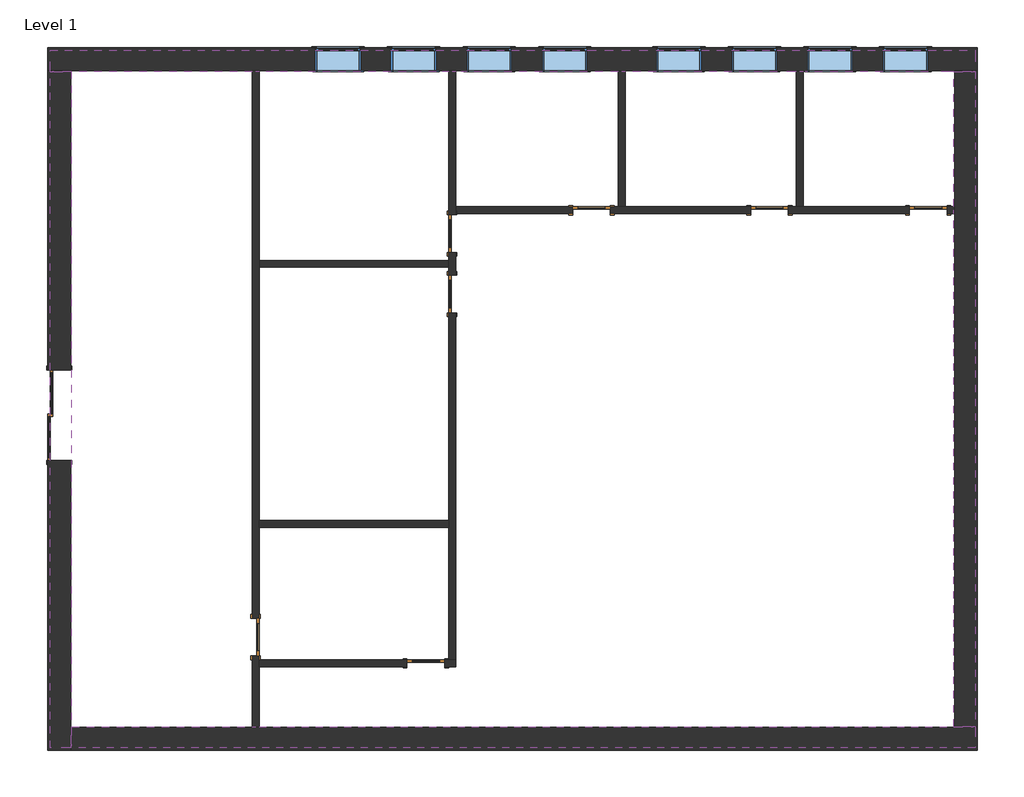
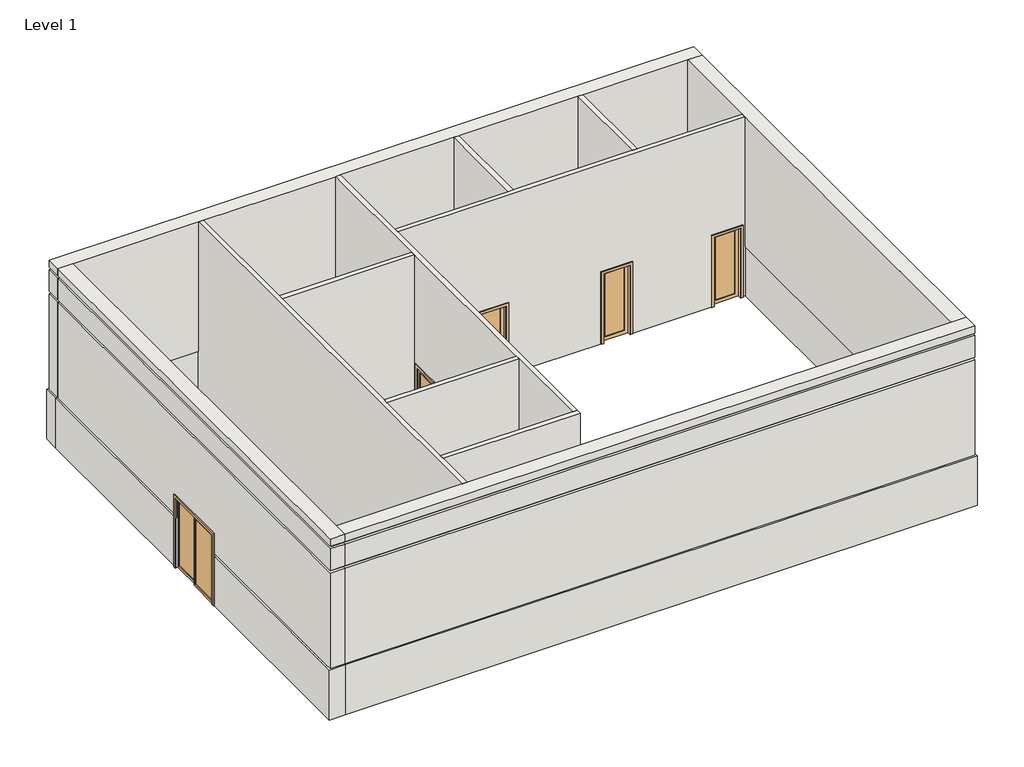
# One storey: 16 walls, 8 doors, 8 windows.
"""IFC4 building model written with IfcOpenShell, lengths in millimetres."""

from ifc_helpers import new_model, si_unit, frame, origin, origin_with_axes, place, context, project, spatial, polyline, outline, extrude, faceted_brep, transform, mapped, element, save
from components import m_single_glass_1_0762_x_2134mm_f7d00e6c, m_single_glass_1_0762_x_2134mm_cf50c2e0, m_sliding_2_panel_1830_x_2134mm_b40b9b25, m_awning_with_trim_0915_x_1220mm_bfbb01a6, m_awning_with_trim_0915_x_1220mm_118d3a6c

model = new_model("IFC4")

# Units and contexts
model_context = context("Model", 3, world=origin())
ifc_project = project(units=[si_unit("LENGTHUNIT", "METRE", prefix="MILLI")], contexts=[model_context])

# Site, building, storey
site = spatial("IfcSite", under=ifc_project)
building = spatial("IfcBuilding", under=site)
storey = spatial("IfcBuildingStorey", under=building, Name="Level 1", Elevation=0.0)

# Doors
placement = place(None, origin())
m_single_glass_1_0762_x_2134mm_shape = m_single_glass_1_0762_x_2134mm_f7d00e6c(model_context)
element("IfcDoor", 1, ObjectType="M_Single-Glass 1 : 0762 x 2134mm", at=placement, inside=storey, context=model_context, shape_type="MappedRepresentation", body=[
    mapped(m_single_glass_1_0762_x_2134mm_shape, transform((6504.7849316, 118.507772, 0.0), x_axis=(0.0, -1.0, 0.0), y_axis=(1.0, 0.0, 0.0), z_axis=(0.0, 0.0, 1.0))),
])
m_single_glass_1_0762_x_2134mm_2_shape = m_single_glass_1_0762_x_2134mm_cf50c2e0(model_context)
element("IfcDoor", 2, ObjectType="M_Single-Glass 1 : 0762 x 2134mm", at=placement, inside=storey, context=model_context, shape_type="MappedRepresentation", body=[
    mapped(m_single_glass_1_0762_x_2134mm_2_shape, transform((2542.7849316, -8025.342228, 0.0), x_axis=(0.0, -1.0, 0.0), y_axis=(1.0, 0.0, 0.0), z_axis=(0.0, 0.0, 1.0))),
])
element("IfcDoor", 3, ObjectType="M_Single-Glass 1 : 0762 x 2134mm", at=placement, inside=storey, context=model_context, shape_type="MappedRepresentation", body=[
    mapped(m_single_glass_1_0762_x_2134mm_2_shape, transform((5975.5349316, -8554.592228, 0.0), x_axis=(1.0, 0.0, 0.0), y_axis=(0.0, 1.0, 0.0), z_axis=(0.0, 0.0, 1.0))),
])
element("IfcDoor", 4, ObjectType="M_Single-Glass 1 : 0762 x 2134mm", at=placement, inside=storey, context=model_context, shape_type="MappedRepresentation", body=[
    mapped(m_single_glass_1_0762_x_2134mm_2_shape, transform((6504.7849316, -1101.492228, 0.0), x_axis=(0.0, 1.0, 0.0), y_axis=(-1.0, 0.0, 0.0), z_axis=(0.0, 0.0, 1.0))),
])
element("IfcDoor", 5, ObjectType="M_Single-Glass 1 : 0762 x 2134mm", at=placement, inside=storey, context=model_context, shape_type="MappedRepresentation", body=[
    mapped(m_single_glass_1_0762_x_2134mm_2_shape, transform((9317.0349316, 589.407772, 0.0), x_axis=(1.0, 0.0, 0.0), y_axis=(0.0, 1.0, 0.0), z_axis=(0.0, 0.0, 1.0))),
])
element("IfcDoor", 6, ObjectType="M_Single-Glass 1 : 0762 x 2134mm", at=placement, inside=storey, context=model_context, shape_type="MappedRepresentation", body=[
    mapped(m_single_glass_1_0762_x_2134mm_2_shape, transform((12905.7849316, 589.407772, 0.0), x_axis=(1.0, 0.0, 0.0), y_axis=(0.0, 1.0, 0.0), z_axis=(0.0, 0.0, 1.0))),
])
element("IfcDoor", 7, ObjectType="M_Single-Glass 1 : 0762 x 2134mm", at=placement, inside=storey, context=model_context, shape_type="MappedRepresentation", body=[
    mapped(m_single_glass_1_0762_x_2134mm_2_shape, transform((16106.7849316, 589.407772, 0.0), x_axis=(1.0, 0.0, 0.0), y_axis=(0.0, 1.0, 0.0), z_axis=(0.0, 0.0, 1.0))),
])
m_sliding_2_panel_1830_x_2134mm_shape = m_sliding_2_panel_1830_x_2134mm_b40b9b25(model_context)
element("IfcDoor", 8, ObjectType="M_Sliding-2 Panel : 1830 x 2134mm", at=placement, inside=storey, context=model_context, shape_type="MappedRepresentation", body=[
    mapped(m_sliding_2_panel_1830_x_2134mm_shape, transform((-1292.2150684, -3548.1132923, 0.0), x_axis=(0.0, 1.0, 0.0), y_axis=(-1.0, 0.0, 0.0), z_axis=(0.0, 0.0, 1.0))),
])

# Walls
element("IfcWall", 9, ObjectType="Exterior - Block on Mtl. Stud", at=placement, inside=storey, context=model_context, shape_type="Brep", body=[
    faceted_brep([(-1649.2150684, 3407.407772, 0.0), (-1189.2150684, 3407.407772, 0.0), (2473.5349316, 3407.407772, 0.0), (2612.0349316, 3407.407772, 0.0), (6435.5349316, 3407.407772, 0.0), (6574.0349316, 3407.407772, 0.0), (9857.7849316, 3407.407772, 0.0), (9996.2849316, 3407.407772, 0.0), (13446.5349316, 3407.407772, 0.0), (13585.0349316, 3407.407772, 0.0), (16638.7849316, 3407.407772, 0.0), (17098.7849316, 3407.407772, 0.0), (17098.7849316, 3407.407772, 1524.0), (16638.7849316, 3407.407772, 1524.0), (16107.2849316, 3407.407772, 1524.0), (16107.2849316, 3407.407772, 915.0), (15192.2849316, 3407.407772, 915.0), (15192.2849316, 3407.407772, 1524.0), (14583.2849316, 3407.407772, 1524.0), (14583.2849316, 3407.407772, 915.0), (13668.2849316, 3407.407772, 915.0), (13668.2849316, 3407.407772, 1524.0), (13585.0349316, 3407.407772, 1524.0), (13446.5349316, 3407.407772, 1524.0), (13059.2849316, 3407.407772, 1524.0), (13059.2849316, 3407.407772, 915.0), (12144.2849316, 3407.407772, 915.0), (12144.2849316, 3407.407772, 1524.0), (11535.2849316, 3407.407772, 1524.0), (11535.2849316, 3407.407772, 915.0), (10620.2849316, 3407.407772, 915.0), (10620.2849316, 3407.407772, 1524.0), (9996.2849316, 3407.407772, 1524.0), (9857.7849316, 3407.407772, 1524.0), (9233.7849316, 3407.407772, 1524.0), (9233.7849316, 3407.407772, 915.0), (8318.7849316, 3407.407772, 915.0), (8318.7849316, 3407.407772, 1524.0), (7709.7849316, 3407.407772, 1524.0), (7709.7849316, 3407.407772, 915.0), (6794.7849316, 3407.407772, 915.0), (6794.7849316, 3407.407772, 1524.0), (6574.0349316, 3407.407772, 1524.0), (6435.5349316, 3407.407772, 1524.0), (6185.7849316, 3407.407772, 1524.0), (6185.7849316, 3407.407772, 915.0), (5270.7849316, 3407.407772, 915.0), (5270.7849316, 3407.407772, 1524.0), (4661.7849316, 3407.407772, 1524.0), (4661.7849316, 3407.407772, 915.0), (3746.7849316, 3407.407772, 915.0), (3746.7849316, 3407.407772, 1524.0), (2612.0349316, 3407.407772, 1524.0), (2473.5349316, 3407.407772, 1524.0), (-1189.2150684, 3407.407772, 1524.0), (-1649.2150684, 3407.407772, 1524.0), (17098.7849316, 3867.407772, 0.0), (-1649.2150684, 3867.407772, 0.0), (-1649.2150684, 3867.407772, 1524.0), (3746.7849316, 3867.407772, 1524.0), (3746.7849316, 3867.407772, 915.0), (4661.7849316, 3867.407772, 915.0), (4661.7849316, 3867.407772, 1524.0), (5270.7849316, 3867.407772, 1524.0), (5270.7849316, 3867.407772, 915.0), (6185.7849316, 3867.407772, 915.0), (6185.7849316, 3867.407772, 1524.0), (6794.7849316, 3867.407772, 1524.0), (6794.7849316, 3867.407772, 915.0), (7709.7849316, 3867.407772, 915.0), (7709.7849316, 3867.407772, 1524.0), (8318.7849316, 3867.407772, 1524.0), (8318.7849316, 3867.407772, 915.0), (9233.7849316, 3867.407772, 915.0), (9233.7849316, 3867.407772, 1524.0), (10620.2849316, 3867.407772, 1524.0), (10620.2849316, 3867.407772, 915.0), (11535.2849316, 3867.407772, 915.0), (11535.2849316, 3867.407772, 1524.0), (12144.2849316, 3867.407772, 1524.0), (12144.2849316, 3867.407772, 915.0), (13059.2849316, 3867.407772, 915.0), (13059.2849316, 3867.407772, 1524.0), (13668.2849316, 3867.407772, 1524.0), (13668.2849316, 3867.407772, 915.0), (14583.2849316, 3867.407772, 915.0), (14583.2849316, 3867.407772, 1524.0), (15192.2849316, 3867.407772, 1524.0), (15192.2849316, 3867.407772, 915.0), (16107.2849316, 3867.407772, 915.0), (16107.2849316, 3867.407772, 1524.0), (17098.7849316, 3867.407772, 1524.0), (3746.7849316, 3818.407772, 1524.0), (16107.2849316, 3818.407772, 1524.0), (15192.2849316, 3818.407772, 1524.0), (14583.2849316, 3818.407772, 1524.0), (13668.2849316, 3818.407772, 1524.0), (13059.2849316, 3818.407772, 1524.0), (12144.2849316, 3818.407772, 1524.0), (11535.2849316, 3818.407772, 1524.0), (10620.2849316, 3818.407772, 1524.0), (9233.7849316, 3818.407772, 1524.0), (8318.7849316, 3818.407772, 1524.0), (7709.7849316, 3818.407772, 1524.0), (6794.7849316, 3818.407772, 1524.0), (6185.7849316, 3818.407772, 1524.0), (5270.7849316, 3818.407772, 1524.0), (4661.7849316, 3818.407772, 1524.0)], [[[0, 1, 2, 3, 4, 5, 6, 7, 8, 9, 10, 11, 12, 13, 14, 15, 16, 17, 18, 19, 20, 21, 22, 23, 24, 25, 26, 27, 28, 29, 30, 31, 32, 33, 34, 35, 36, 37, 38, 39, 40, 41, 42, 43, 44, 45, 46, 47, 48, 49, 50, 51, 52, 53, 54, 55]], [[56, 57, 58, 59, 60, 61, 62, 63, 64, 65, 66, 67, 68, 69, 70, 71, 72, 73, 74, 75, 76, 77, 78, 79, 80, 81, 82, 83, 84, 85, 86, 87, 88, 89, 90, 91]], [[11, 10, 9, 8, 7, 6, 5, 4, 3, 2, 1, 0, 57, 56]], [[58, 55, 54, 53, 52, 51, 92, 59]], [[12, 91, 90, 93, 14, 13]], [[17, 94, 87, 86, 95, 18]], [[21, 96, 83, 82, 97, 24, 23, 22]], [[27, 98, 79, 78, 99, 28]], [[31, 100, 75, 74, 101, 34, 33, 32]], [[37, 102, 71, 70, 103, 38]], [[41, 104, 67, 66, 105, 44, 43, 42]], [[47, 106, 63, 62, 107, 48]], [[0, 55, 58, 57]], [[12, 11, 56, 91]], [[89, 15, 14, 93, 90]], [[15, 89, 88, 16]], [[16, 88, 87, 94, 17]], [[85, 19, 18, 95, 86]], [[19, 85, 84, 20]], [[20, 84, 83, 96, 21]], [[81, 25, 24, 97, 82]], [[25, 81, 80, 26]], [[26, 80, 79, 98, 27]], [[77, 29, 28, 99, 78]], [[29, 77, 76, 30]], [[30, 76, 75, 100, 31]], [[36, 72, 71, 102, 37]], [[72, 36, 35, 73]], [[73, 35, 34, 101, 74]], [[40, 68, 67, 104, 41]], [[68, 40, 39, 69]], [[69, 39, 38, 103, 70]], [[46, 64, 63, 106, 47]], [[64, 46, 45, 65]], [[65, 45, 44, 105, 66]], [[50, 60, 59, 92, 51]], [[60, 50, 49, 61]], [[61, 49, 48, 107, 62]]]),
])
element("IfcWall", 10, ObjectType="Exterior - Block on Mtl. Stud", at=placement, inside=storey, context=model_context, shape_type="Brep", body=[
    faceted_brep([(-1189.2150684, 3407.407772, 0.0), (-1189.2150684, 3407.407772, 1524.0), (-1189.2150684, -2633.1132923, 1524.0), (-1189.2150684, -2633.1132923, 0.0), (-1649.2150684, 3407.407772, 1524.0), (-1649.2150684, 3407.407772, 0.0), (-1649.2150684, -2633.1132923, 0.0), (-1649.2150684, -2633.1132923, 1524.0), (-1600.2150684, -2633.1132923, 1524.0)], [[[0, 1, 2, 3]], [[4, 5, 6, 7]], [[5, 0, 3, 6]], [[1, 4, 7, 8, 2]], [[1, 0, 5, 4]], [[3, 2, 8, 7, 6]]]),
    faceted_brep([(-1189.2150684, -10308.592228, 1524.0), (-1189.2150684, -10308.592228, 0.0), (-1189.2150684, -9848.592228, 0.0), (-1189.2150684, -4463.1132923, 0.0), (-1189.2150684, -4463.1132923, 1524.0), (-1189.2150684, -9848.592228, 1524.0), (-1649.2150684, -10308.592228, 0.0), (-1649.2150684, -10308.592228, 1524.0), (-1649.2150684, -4463.1132923, 1524.0), (-1649.2150684, -4463.1132923, 0.0), (-1600.2150684, -4463.1132923, 1524.0)], [[[0, 1, 2, 3, 4, 5]], [[6, 7, 8, 9]], [[1, 6, 9, 3, 2]], [[7, 0, 5, 4, 10, 8]], [[1, 0, 7, 6]], [[4, 3, 9, 8, 10]]]),
])
element("IfcWall", 11, ObjectType="Exterior - Block on Mtl. Stud", at=placement, inside=storey, context=model_context, shape_type="Brep", body=[
    faceted_brep([(17098.7849316, -9848.592228, 0.0), (16638.7849316, -9848.592228, 0.0), (2612.0349316, -9848.592228, 0.0), (2473.5349316, -9848.592228, 0.0), (-1189.2150684, -9848.592228, 0.0), (-1189.2150684, -9848.592228, 1524.0), (2473.5349316, -9848.592228, 1524.0), (2612.0349316, -9848.592228, 1524.0), (16638.7849316, -9848.592228, 1524.0), (17098.7849316, -9848.592228, 1524.0), (17098.7849316, -10308.592228, 0.0), (17098.7849316, -10308.592228, 1524.0), (-1189.2150684, -10308.592228, 1524.0), (-1189.2150684, -10308.592228, 0.0)], [[[0, 1, 2, 3, 4, 5, 6, 7, 8, 9]], [[10, 11, 12, 13]], [[4, 3, 2, 1, 0, 10, 13]], [[9, 8, 7, 6, 5, 12, 11]], [[0, 9, 11, 10]], [[5, 4, 13, 12]]]),
])
element("IfcWall", 12, ObjectType="Exterior - Block on Mtl. Stud", at=placement, inside=storey, context=model_context, shape_type="Brep", body=[
    faceted_brep([(16638.7849316, 3407.407772, 0.0), (16638.7849316, 658.657772, 0.0), (16638.7849316, 520.157772, 0.0), (16638.7849316, -9848.592228, 0.0), (16638.7849316, -9848.592228, 1524.0), (16638.7849316, 520.157772, 1524.0), (16638.7849316, 658.657772, 1524.0), (16638.7849316, 3407.407772, 1524.0), (17098.7849316, 3407.407772, 0.0), (17098.7849316, 3407.407772, 1524.0), (17098.7849316, -9848.592228, 1524.0), (17098.7849316, -9848.592228, 0.0)], [[[0, 1, 2, 3, 4, 5, 6, 7]], [[8, 9, 10, 11]], [[3, 2, 1, 0, 8, 11]], [[7, 6, 5, 4, 10, 9]], [[0, 7, 9, 8]], [[4, 3, 11, 10]]]),
])
element("IfcWall", 13, ObjectType="Exterior - Render on Brick on Block", at=placement, inside=storey, context=model_context, shape_type="Brep", body=[
    faceted_brep([(17049.7849316, 3389.407772, 5486.0), (16620.7849316, 3389.407772, 5486.0), (13585.0349316, 3389.407772, 5486.0), (13446.5349316, 3389.407772, 5486.0), (9996.2849316, 3389.407772, 5486.0), (9857.7849316, 3389.407772, 5486.0), (6574.0349316, 3389.407772, 5486.0), (6435.5349316, 3389.407772, 5486.0), (2612.0349316, 3389.407772, 5486.0), (2473.5349316, 3389.407772, 5486.0), (-1171.2150684, 3389.407772, 5486.0), (-1600.2150684, 3389.407772, 5486.0), (-1600.2150684, 3389.407772, 5261.0), (-1525.2150684, 3389.407772, 5261.0), (-1525.2150684, 3389.407772, 5186.0), (-1600.2150684, 3389.407772, 5186.0), (-1600.2150684, 3389.407772, 4524.0), (-1525.2150684, 3389.407772, 4524.0), (-1525.2150684, 3389.407772, 4449.0), (-1600.2150684, 3389.407772, 4449.0), (-1600.2150684, 3389.407772, 1524.0), (-1171.2150684, 3389.407772, 1524.0), (2473.5349316, 3389.407772, 1524.0), (2612.0349316, 3389.407772, 1524.0), (3746.7849316, 3389.407772, 1524.0), (3746.7849316, 3389.407772, 2135.0), (4661.7849316, 3389.407772, 2135.0), (4661.7849316, 3389.407772, 1524.0), (5270.7849316, 3389.407772, 1524.0), (5270.7849316, 3389.407772, 2135.0), (6185.7849316, 3389.407772, 2135.0), (6185.7849316, 3389.407772, 1524.0), (6435.5349316, 3389.407772, 1524.0), (6574.0349316, 3389.407772, 1524.0), (6794.7849316, 3389.407772, 1524.0), (6794.7849316, 3389.407772, 2135.0), (7709.7849316, 3389.407772, 2135.0), (7709.7849316, 3389.407772, 1524.0), (8318.7849316, 3389.407772, 1524.0), (8318.7849316, 3389.407772, 2135.0), (9233.7849316, 3389.407772, 2135.0), (9233.7849316, 3389.407772, 1524.0), (9857.7849316, 3389.407772, 1524.0), (9996.2849316, 3389.407772, 1524.0), (10620.2849316, 3389.407772, 1524.0), (10620.2849316, 3389.407772, 2135.0), (11535.2849316, 3389.407772, 2135.0), (11535.2849316, 3389.407772, 1524.0), (12144.2849316, 3389.407772, 1524.0), (12144.2849316, 3389.407772, 2135.0), (13059.2849316, 3389.407772, 2135.0), (13059.2849316, 3389.407772, 1524.0), (13446.5349316, 3389.407772, 1524.0), (13585.0349316, 3389.407772, 1524.0), (13668.2849316, 3389.407772, 1524.0), (13668.2849316, 3389.407772, 2135.0), (14583.2849316, 3389.407772, 2135.0), (14583.2849316, 3389.407772, 1524.0), (15192.2849316, 3389.407772, 1524.0), (15192.2849316, 3389.407772, 2135.0), (16107.2849316, 3389.407772, 2135.0), (16107.2849316, 3389.407772, 1524.0), (16620.7849316, 3389.407772, 1524.0), (17049.7849316, 3389.407772, 1524.0), (17049.7849316, 3389.407772, 4449.0), (16974.7849316, 3389.407772, 4449.0), (16974.7849316, 3389.407772, 4524.0), (17049.7849316, 3389.407772, 4524.0), (17049.7849316, 3389.407772, 5186.0), (16974.7849316, 3389.407772, 5186.0), (16974.7849316, 3389.407772, 5261.0), (17049.7849316, 3389.407772, 5261.0), (-1600.2150684, 3818.407772, 5486.0), (17049.7849316, 3818.407772, 5486.0), (17049.7849316, 3818.407772, 5261.0), (-1600.2150684, 3818.407772, 5261.0), (-1600.2150684, 3818.407772, 1524.0), (-1600.2150684, 3818.407772, 4449.0), (17049.7849316, 3818.407772, 4449.0), (17049.7849316, 3818.407772, 1524.0), (16107.2849316, 3818.407772, 1524.0), (16107.2849316, 3818.407772, 2135.0), (15192.2849316, 3818.407772, 2135.0), (15192.2849316, 3818.407772, 1524.0), (14583.2849316, 3818.407772, 1524.0), (14583.2849316, 3818.407772, 2135.0), (13668.2849316, 3818.407772, 2135.0), (13668.2849316, 3818.407772, 1524.0), (13059.2849316, 3818.407772, 1524.0), (13059.2849316, 3818.407772, 2135.0), (12144.2849316, 3818.407772, 2135.0), (12144.2849316, 3818.407772, 1524.0), (11535.2849316, 3818.407772, 1524.0), (11535.2849316, 3818.407772, 2135.0), (10620.2849316, 3818.407772, 2135.0), (10620.2849316, 3818.407772, 1524.0), (9233.7849316, 3818.407772, 1524.0), (9233.7849316, 3818.407772, 2135.0), (8318.7849316, 3818.407772, 2135.0), (8318.7849316, 3818.407772, 1524.0), (7709.7849316, 3818.407772, 1524.0), (7709.7849316, 3818.407772, 2135.0), (6794.7849316, 3818.407772, 2135.0), (6794.7849316, 3818.407772, 1524.0), (6185.7849316, 3818.407772, 1524.0), (6185.7849316, 3818.407772, 2135.0), (5270.7849316, 3818.407772, 2135.0), (5270.7849316, 3818.407772, 1524.0), (4661.7849316, 3818.407772, 1524.0), (4661.7849316, 3818.407772, 2135.0), (3746.7849316, 3818.407772, 2135.0), (3746.7849316, 3818.407772, 1524.0), (17049.7849316, 3818.407772, 4524.0), (-1600.2150684, 3818.407772, 4524.0), (-1600.2150684, 3818.407772, 5186.0), (17049.7849316, 3818.407772, 5186.0), (17049.7849316, 3793.407772, 1524.0), (16107.2849316, 3407.407772, 1524.0), (16107.2849316, 3793.407772, 1524.0), (-1600.2150684, 3793.407772, 1524.0), (3746.7849316, 3793.407772, 1524.0), (3746.7849316, 3407.407772, 1524.0), (15192.2849316, 3793.407772, 1524.0), (15192.2849316, 3407.407772, 1524.0), (14583.2849316, 3407.407772, 1524.0), (14583.2849316, 3793.407772, 1524.0), (13668.2849316, 3793.407772, 1524.0), (13668.2849316, 3407.407772, 1524.0), (13059.2849316, 3407.407772, 1524.0), (13059.2849316, 3793.407772, 1524.0), (12144.2849316, 3793.407772, 1524.0), (12144.2849316, 3407.407772, 1524.0), (11535.2849316, 3407.407772, 1524.0), (11535.2849316, 3793.407772, 1524.0), (10620.2849316, 3793.407772, 1524.0), (10620.2849316, 3407.407772, 1524.0), (9233.7849316, 3407.407772, 1524.0), (9233.7849316, 3793.407772, 1524.0), (8318.7849316, 3793.407772, 1524.0), (8318.7849316, 3407.407772, 1524.0), (7709.7849316, 3407.407772, 1524.0), (7709.7849316, 3793.407772, 1524.0), (6794.7849316, 3793.407772, 1524.0), (6794.7849316, 3407.407772, 1524.0), (6185.7849316, 3407.407772, 1524.0), (6185.7849316, 3793.407772, 1524.0), (5270.7849316, 3793.407772, 1524.0), (5270.7849316, 3407.407772, 1524.0), (4661.7849316, 3407.407772, 1524.0), (4661.7849316, 3793.407772, 1524.0), (-1525.2150684, 3743.407772, 4449.0), (-1525.2150684, 3743.407772, 4524.0), (16974.7849316, 3743.407772, 4524.0), (16974.7849316, 3743.407772, 4449.0), (-1525.2150684, 3743.407772, 5261.0), (16974.7849316, 3743.407772, 5261.0), (16974.7849316, 3743.407772, 5186.0), (-1525.2150684, 3743.407772, 5186.0)], [[[0, 1, 2, 3, 4, 5, 6, 7, 8, 9, 10, 11, 12, 13, 14, 15, 16, 17, 18, 19, 20, 21, 22, 23, 24, 25, 26, 27, 28, 29, 30, 31, 32, 33, 34, 35, 36, 37, 38, 39, 40, 41, 42, 43, 44, 45, 46, 47, 48, 49, 50, 51, 52, 53, 54, 55, 56, 57, 58, 59, 60, 61, 62, 63, 64, 65, 66, 67, 68, 69, 70, 71]], [[72, 73, 74, 75]], [[76, 77, 78, 79, 80, 81, 82, 83, 84, 85, 86, 87, 88, 89, 90, 91, 92, 93, 94, 95, 96, 97, 98, 99, 100, 101, 102, 103, 104, 105, 106, 107, 108, 109, 110, 111]], [[112, 113, 114, 115]], [[11, 10, 9, 8, 7, 6, 5, 4, 3, 2, 1, 0, 73, 72]], [[116, 63, 62, 61, 117, 118]], [[20, 119, 120, 121, 24, 23, 22, 21]], [[122, 123, 58, 57, 124, 125]], [[126, 127, 54, 53, 52, 51, 128, 129]], [[130, 131, 48, 47, 132, 133]], [[134, 135, 44, 43, 42, 41, 136, 137]], [[138, 139, 38, 37, 140, 141]], [[142, 143, 34, 33, 32, 31, 144, 145]], [[146, 147, 28, 27, 148, 149]], [[150, 151, 152, 153]], [[154, 155, 156, 157]], [[11, 72, 75, 12]], [[119, 20, 19, 77, 76]], [[113, 16, 15, 114]], [[73, 0, 71, 74]], [[63, 116, 79, 78, 64]], [[67, 112, 115, 68]], [[119, 76, 111, 120]], [[79, 116, 118, 80]], [[83, 122, 125, 84]], [[87, 126, 129, 88]], [[91, 130, 133, 92]], [[95, 134, 137, 96]], [[99, 138, 141, 100]], [[103, 142, 145, 104]], [[107, 146, 149, 108]], [[152, 151, 17, 16, 113, 112, 67, 66]], [[150, 153, 65, 64, 78, 77, 19, 18]], [[151, 150, 18, 17]], [[153, 152, 66, 65]], [[155, 154, 13, 12, 75, 74, 71, 70]], [[157, 156, 69, 68, 115, 114, 15, 14]], [[154, 157, 14, 13]], [[156, 155, 70, 69]], [[60, 81, 80, 118, 117, 61]], [[82, 59, 58, 123, 122, 83]], [[81, 60, 59, 82]], [[56, 85, 84, 125, 124, 57]], [[86, 55, 54, 127, 126, 87]], [[85, 56, 55, 86]], [[50, 89, 88, 129, 128, 51]], [[90, 49, 48, 131, 130, 91]], [[89, 50, 49, 90]], [[46, 93, 92, 133, 132, 47]], [[94, 45, 44, 135, 134, 95]], [[93, 46, 45, 94]], [[98, 39, 38, 139, 138, 99]], [[40, 97, 96, 137, 136, 41]], [[39, 98, 97, 40]], [[102, 35, 34, 143, 142, 103]], [[36, 101, 100, 141, 140, 37]], [[35, 102, 101, 36]], [[106, 29, 28, 147, 146, 107]], [[30, 105, 104, 145, 144, 31]], [[29, 106, 105, 30]], [[110, 25, 24, 121, 120, 111]], [[26, 109, 108, 149, 148, 27]], [[25, 110, 109, 26]]]),
])
element("IfcWall", 14, ObjectType="Exterior - Render on Brick on Block", at=placement, inside=storey, context=model_context, shape_type="Brep", body=[
    faceted_brep([(-1171.2150684, 3389.407772, 5486.0), (-1171.2150684, -9830.592228, 5486.0), (-1171.2150684, -10259.592228, 5486.0), (-1171.2150684, -10259.592228, 5261.0), (-1171.2150684, -10184.592228, 5261.0), (-1171.2150684, -10184.592228, 5186.0), (-1171.2150684, -10259.592228, 5186.0), (-1171.2150684, -10259.592228, 4524.0), (-1171.2150684, -10184.592228, 4524.0), (-1171.2150684, -10184.592228, 4449.0), (-1171.2150684, -10259.592228, 4449.0), (-1171.2150684, -10259.592228, 1524.0), (-1171.2150684, -9830.592228, 1524.0), (-1171.2150684, -4463.1132923, 1524.0), (-1171.2150684, -4463.1132923, 2134.0), (-1171.2150684, -2633.1132923, 2134.0), (-1171.2150684, -2633.1132923, 1524.0), (-1171.2150684, 3389.407772, 1524.0), (-1600.2150684, -10259.592228, 5486.0), (-1600.2150684, 3389.407772, 5486.0), (-1600.2150684, 3389.407772, 5261.0), (-1600.2150684, -10259.592228, 5261.0), (-1600.2150684, -10259.592228, 1524.0), (-1600.2150684, -10259.592228, 4449.0), (-1600.2150684, 3389.407772, 4449.0), (-1600.2150684, 3389.407772, 1524.0), (-1600.2150684, -2633.1132923, 1524.0), (-1600.2150684, -2633.1132923, 2134.0), (-1600.2150684, -4463.1132923, 2134.0), (-1600.2150684, -4463.1132923, 1524.0), (-1600.2150684, 3389.407772, 4524.0), (-1600.2150684, -10259.592228, 4524.0), (-1600.2150684, -10259.592228, 5186.0), (-1600.2150684, 3389.407772, 5186.0), (-1575.2150684, -10259.592228, 1524.0), (-1575.2150684, -4463.1132923, 1524.0), (-1189.2150684, -4463.1132923, 1524.0), (-1575.2150684, 3389.407772, 1524.0), (-1189.2150684, -2633.1132923, 1524.0), (-1575.2150684, -2633.1132923, 1524.0), (-1525.2150684, -10184.592228, 4449.0), (-1525.2150684, -10184.592228, 4524.0), (-1525.2150684, 3389.407772, 4524.0), (-1525.2150684, 3389.407772, 4449.0), (-1525.2150684, -10184.592228, 5186.0), (-1525.2150684, -10184.592228, 5261.0), (-1525.2150684, 3389.407772, 5261.0), (-1525.2150684, 3389.407772, 5186.0)], [[[0, 1, 2, 3, 4, 5, 6, 7, 8, 9, 10, 11, 12, 13, 14, 15, 16, 17]], [[18, 19, 20, 21]], [[22, 23, 24, 25, 26, 27, 28, 29]], [[30, 31, 32, 33]], [[2, 1, 0, 19, 18]], [[11, 34, 35, 36, 13, 12]], [[37, 17, 16, 38, 39]], [[40, 41, 42, 43]], [[44, 45, 46, 47]], [[2, 18, 21, 3]], [[34, 11, 10, 23, 22]], [[31, 7, 6, 32]], [[0, 17, 37, 25, 24, 43, 42, 30, 33, 47, 46, 20, 19]], [[34, 22, 29, 35]], [[25, 37, 39, 26]], [[42, 41, 8, 7, 31, 30]], [[40, 43, 24, 23, 10, 9]], [[41, 40, 9, 8]], [[46, 45, 4, 3, 21, 20]], [[44, 47, 33, 32, 6, 5]], [[45, 44, 5, 4]], [[28, 14, 13, 36, 35, 29]], [[15, 27, 26, 39, 38, 16]], [[14, 28, 27, 15]]]),
])
element("IfcWall", 15, ObjectType="Exterior - Render on Brick on Block", at=placement, inside=storey, context=model_context, shape_type="Brep", body=[
    faceted_brep([(17049.7849316, -9830.592228, 1524.0), (16620.7849316, -9830.592228, 1524.0), (2612.0349316, -9830.592228, 1524.0), (2473.5349316, -9830.592228, 1524.0), (-1171.2150684, -9830.592228, 1524.0), (-1171.2150684, -9830.592228, 5486.0), (2473.5349316, -9830.592228, 5486.0), (2612.0349316, -9830.592228, 5486.0), (16620.7849316, -9830.592228, 5486.0), (17049.7849316, -9830.592228, 5486.0), (17049.7849316, -9830.592228, 5261.0), (16974.7849316, -9830.592228, 5261.0), (16974.7849316, -9830.592228, 5186.0), (17049.7849316, -9830.592228, 5186.0), (17049.7849316, -9830.592228, 4524.0), (16974.7849316, -9830.592228, 4524.0), (16974.7849316, -9830.592228, 4449.0), (17049.7849316, -9830.592228, 4449.0), (17049.7849316, -10259.592228, 5486.0), (-1171.2150684, -10259.592228, 5486.0), (-1171.2150684, -10259.592228, 5261.0), (17049.7849316, -10259.592228, 5261.0), (-1171.2150684, -10259.592228, 1524.0), (17049.7849316, -10259.592228, 1524.0), (17049.7849316, -10259.592228, 4449.0), (-1171.2150684, -10259.592228, 4449.0), (-1171.2150684, -10259.592228, 4524.0), (17049.7849316, -10259.592228, 4524.0), (17049.7849316, -10259.592228, 5186.0), (-1171.2150684, -10259.592228, 5186.0), (17049.7849316, -10234.592228, 1524.0), (-1171.2150684, -10234.592228, 1524.0), (16974.7849316, -10184.592228, 4449.0), (16974.7849316, -10184.592228, 4524.0), (-1171.2150684, -10184.592228, 4524.0), (-1171.2150684, -10184.592228, 4449.0), (16974.7849316, -10184.592228, 5186.0), (16974.7849316, -10184.592228, 5261.0), (-1171.2150684, -10184.592228, 5261.0), (-1171.2150684, -10184.592228, 5186.0)], [[[0, 1, 2, 3, 4, 5, 6, 7, 8, 9, 10, 11, 12, 13, 14, 15, 16, 17]], [[18, 19, 20, 21]], [[22, 23, 24, 25]], [[26, 27, 28, 29]], [[9, 8, 7, 6, 5, 19, 18]], [[4, 3, 2, 1, 0, 30, 31]], [[32, 33, 34, 35]], [[36, 37, 38, 39]], [[9, 18, 21, 10]], [[30, 0, 17, 24, 23]], [[27, 14, 13, 28]], [[5, 4, 31, 22, 25, 35, 34, 26, 29, 39, 38, 20, 19]], [[23, 22, 31, 30]], [[34, 33, 15, 14, 27, 26]], [[32, 35, 25, 24, 17, 16]], [[33, 32, 16, 15]], [[38, 37, 11, 10, 21, 20]], [[36, 39, 29, 28, 13, 12]], [[37, 36, 12, 11]]]),
])
element("IfcWall", 16, ObjectType="Exterior - Render on Brick on Block", at=placement, inside=storey, context=model_context, shape_type="Brep", body=[
    faceted_brep([(16620.7849316, 3389.407772, 1524.0), (16620.7849316, 658.657772, 1524.0), (16620.7849316, 520.157772, 1524.0), (16620.7849316, -9830.592228, 1524.0), (16620.7849316, -9830.592228, 5486.0), (16620.7849316, 520.157772, 5486.0), (16620.7849316, 658.657772, 5486.0), (16620.7849316, 3389.407772, 5486.0), (17049.7849316, 3389.407772, 5486.0), (17049.7849316, -9830.592228, 5486.0), (17049.7849316, -9830.592228, 5261.0), (17049.7849316, 3389.407772, 5261.0), (17049.7849316, -9830.592228, 1524.0), (17049.7849316, 3389.407772, 1524.0), (17049.7849316, 3389.407772, 4449.0), (17049.7849316, -9830.592228, 4449.0), (17049.7849316, -9830.592228, 4524.0), (17049.7849316, 3389.407772, 4524.0), (17049.7849316, 3389.407772, 5186.0), (17049.7849316, -9830.592228, 5186.0), (17024.7849316, 3389.407772, 1524.0), (17024.7849316, -9830.592228, 1524.0), (16974.7849316, -9830.592228, 4449.0), (16974.7849316, 3389.407772, 4449.0), (16974.7849316, 3389.407772, 4524.0), (16974.7849316, -9830.592228, 4524.0), (16974.7849316, -9830.592228, 5186.0), (16974.7849316, 3389.407772, 5186.0), (16974.7849316, 3389.407772, 5261.0), (16974.7849316, -9830.592228, 5261.0)], [[[0, 1, 2, 3, 4, 5, 6, 7]], [[8, 9, 10, 11]], [[12, 13, 14, 15]], [[16, 17, 18, 19]], [[7, 6, 5, 4, 9, 8]], [[3, 2, 1, 0, 20, 21]], [[22, 23, 24, 25]], [[26, 27, 28, 29]], [[0, 7, 8, 11, 28, 27, 18, 17, 24, 23, 14, 13, 20]], [[4, 3, 21, 12, 15, 22, 25, 16, 19, 26, 29, 10, 9]], [[13, 12, 21, 20]], [[25, 24, 17, 16]], [[23, 22, 15, 14]], [[29, 28, 11, 10]], [[27, 26, 19, 18]]]),
])
element("IfcWall", 17, ObjectType="Interior - 138mm Partition (1-hr)", at=placement, inside=storey, context=model_context, shape_type="Brep", body=[
    faceted_brep([(2473.5349316, -8406.342228, 2134.0), (2473.5349316, -8406.342228, 0.0), (2473.5349316, -9848.592228, 0.0), (2473.5349316, -9848.592228, 1524.0), (2473.5349316, -9830.592228, 1524.0), (2473.5349316, -9830.592228, 5486.0), (2473.5349316, 3389.407772, 5486.0), (2473.5349316, 3389.407772, 1524.0), (2473.5349316, 3407.407772, 1524.0), (2473.5349316, 3407.407772, 0.0), (2473.5349316, -7644.342228, 0.0), (2473.5349316, -7644.342228, 2134.0), (2612.0349316, -9848.592228, 0.0), (2612.0349316, -8623.842228, 0.0), (2612.0349316, -8485.342228, 0.0), (2612.0349316, -8406.342228, 0.0), (2612.0349316, -8406.342228, 2134.0), (2612.0349316, -7644.342228, 2134.0), (2612.0349316, -7644.342228, 0.0), (2612.0349316, -5811.592228, 0.0), (2612.0349316, -5673.092228, 0.0), (2612.0349316, -560.742228, 0.0), (2612.0349316, -422.242228, 0.0), (2612.0349316, 3407.407772, 0.0), (2612.0349316, 3407.407772, 1524.0), (2612.0349316, 3389.407772, 1524.0), (2612.0349316, 3389.407772, 5486.0), (2612.0349316, -422.242228, 5486.0), (2612.0349316, -560.742228, 5486.0), (2612.0349316, -5673.092228, 5486.0), (2612.0349316, -5811.592228, 5486.0), (2612.0349316, -8485.342228, 5486.0), (2612.0349316, -8623.842228, 5486.0), (2612.0349316, -9830.592228, 5486.0), (2612.0349316, -9830.592228, 1524.0), (2612.0349316, -9848.592228, 1524.0)], [[[0, 1, 2, 3, 4, 5, 6, 7, 8, 9, 10, 11]], [[12, 13, 14, 15, 16, 17, 18, 19, 20, 21, 22, 23, 24, 25, 26, 27, 28, 29, 30, 31, 32, 33, 34, 35]], [[10, 9, 23, 22, 21, 20, 19, 18]], [[2, 1, 15, 14, 13, 12]], [[6, 5, 33, 32, 31, 30, 29, 28, 27, 26]], [[7, 25, 24, 8]], [[9, 8, 24, 23]], [[7, 6, 26, 25]], [[34, 4, 3, 35]], [[3, 2, 12, 35]], [[5, 4, 34, 33]], [[16, 15, 1, 0]], [[17, 16, 0, 11]], [[18, 17, 11, 10]]]),
])
element("IfcWall", 18, ObjectType="Interior - 138mm Partition (1-hr)", at=placement, inside=storey, context=model_context, shape_type="Brep", body=[
    faceted_brep([(6356.5349316, -8623.842228, 2134.0), (6356.5349316, -8623.842228, 0.0), (6574.0349316, -8623.842228, 0.0), (6574.0349316, -8623.842228, 5486.0), (2612.0349316, -8623.842228, 5486.0), (2612.0349316, -8623.842228, 0.0), (5594.5349316, -8623.842228, 0.0), (5594.5349316, -8623.842228, 2134.0), (6574.0349316, -8485.342228, 0.0), (6435.5349316, -8485.342228, 0.0), (6356.5349316, -8485.342228, 0.0), (6356.5349316, -8485.342228, 2134.0), (5594.5349316, -8485.342228, 2134.0), (5594.5349316, -8485.342228, 0.0), (2612.0349316, -8485.342228, 0.0), (2612.0349316, -8485.342228, 5486.0), (6435.5349316, -8485.342228, 5486.0), (6574.0349316, -8485.342228, 5486.0)], [[[0, 1, 2, 3, 4, 5, 6, 7]], [[8, 9, 10, 11, 12, 13, 14, 15, 16, 17]], [[6, 5, 14, 13]], [[2, 1, 10, 9, 8]], [[4, 3, 17, 16, 15]], [[5, 4, 15, 14]], [[3, 2, 8, 17]], [[11, 10, 1, 0]], [[12, 11, 0, 7]], [[13, 12, 7, 6]]]),
])
element("IfcWall", 19, ObjectType="Interior - 138mm Partition (1-hr)", at=placement, inside=storey, context=model_context, shape_type="Brep", body=[
    faceted_brep([(6574.0349316, -720.492228, 0.0), (6574.0349316, -262.492228, 0.0), (6574.0349316, -262.492228, 2134.0), (6574.0349316, 499.507772, 2134.0), (6574.0349316, 499.507772, 0.0), (6574.0349316, 520.157772, 0.0), (6574.0349316, 658.657772, 0.0), (6574.0349316, 3407.407772, 0.0), (6574.0349316, 3407.407772, 1524.0), (6574.0349316, 3389.407772, 1524.0), (6574.0349316, 3389.407772, 5486.0), (6574.0349316, 658.657772, 5486.0), (6574.0349316, 520.157772, 5486.0), (6574.0349316, -8485.342228, 5486.0), (6574.0349316, -8485.342228, 0.0), (6574.0349316, -1482.492228, 0.0), (6574.0349316, -1482.492228, 2134.0), (6574.0349316, -720.492228, 2134.0), (6435.5349316, -262.492228, 2134.0), (6435.5349316, -262.492228, 0.0), (6435.5349316, -422.242228, 0.0), (6435.5349316, -560.742228, 0.0), (6435.5349316, -720.492228, 0.0), (6435.5349316, -720.492228, 2134.0), (6435.5349316, -1482.492228, 2134.0), (6435.5349316, -1482.492228, 0.0), (6435.5349316, -5673.092228, 0.0), (6435.5349316, -5811.592228, 0.0), (6435.5349316, -8485.342228, 0.0), (6435.5349316, -8485.342228, 5486.0), (6435.5349316, -5811.592228, 5486.0), (6435.5349316, -5673.092228, 5486.0), (6435.5349316, -560.742228, 5486.0), (6435.5349316, -422.242228, 5486.0), (6435.5349316, 3389.407772, 5486.0), (6435.5349316, 3389.407772, 1524.0), (6435.5349316, 3407.407772, 1524.0), (6435.5349316, 3407.407772, 0.0), (6435.5349316, 499.507772, 0.0), (6435.5349316, 499.507772, 2134.0)], [[[0, 1, 2, 3, 4, 5, 6, 7, 8, 9, 10, 11, 12, 13, 14, 15, 16, 17]], [[18, 19, 20, 21, 22, 23, 24, 25, 26, 27, 28, 29, 30, 31, 32, 33, 34, 35, 36, 37, 38, 39]], [[15, 14, 28, 27, 26, 25]], [[38, 37, 7, 6, 5, 4]], [[22, 21, 20, 19, 1, 0]], [[13, 12, 11, 10, 34, 33, 32, 31, 30, 29]], [[14, 13, 29, 28]], [[35, 9, 8, 36]], [[8, 7, 37, 36]], [[10, 9, 35, 34]], [[23, 22, 0, 17]], [[24, 23, 17, 16]], [[25, 24, 16, 15]], [[2, 1, 19, 18]], [[3, 2, 18, 39]], [[4, 3, 39, 38]]]),
])
element("IfcWall", 20, ObjectType="Interior - 138mm Partition (1-hr)", at=placement, inside=storey, context=model_context, shape_type="Brep", body=[
    faceted_brep([(16638.7849316, 658.657772, 0.0), (16487.7849316, 658.657772, 0.0), (16487.7849316, 658.657772, 2134.0), (15725.7849316, 658.657772, 2134.0), (15725.7849316, 658.657772, 0.0), (13585.0349316, 658.657772, 0.0), (13446.5349316, 658.657772, 0.0), (13286.7849316, 658.657772, 0.0), (13286.7849316, 658.657772, 2134.0), (12524.7849316, 658.657772, 2134.0), (12524.7849316, 658.657772, 0.0), (9996.2849316, 658.657772, 0.0), (9857.7849316, 658.657772, 0.0), (9698.0349316, 658.657772, 0.0), (9698.0349316, 658.657772, 2134.0), (8936.0349316, 658.657772, 2134.0), (8936.0349316, 658.657772, 0.0), (6574.0349316, 658.657772, 0.0), (6574.0349316, 658.657772, 5486.0), (9857.7849316, 658.657772, 5486.0), (9996.2849316, 658.657772, 5486.0), (13446.5349316, 658.657772, 5486.0), (13585.0349316, 658.657772, 5486.0), (16620.7849316, 658.657772, 5486.0), (16620.7849316, 658.657772, 1524.0), (16638.7849316, 658.657772, 1524.0), (16487.7849316, 520.157772, 2134.0), (16487.7849316, 520.157772, 0.0), (16638.7849316, 520.157772, 0.0), (16638.7849316, 520.157772, 1524.0), (16620.7849316, 520.157772, 1524.0), (16620.7849316, 520.157772, 5486.0), (6574.0349316, 520.157772, 5486.0), (6574.0349316, 520.157772, 0.0), (8936.0349316, 520.157772, 0.0), (8936.0349316, 520.157772, 2134.0), (9698.0349316, 520.157772, 2134.0), (9698.0349316, 520.157772, 0.0), (12524.7849316, 520.157772, 0.0), (12524.7849316, 520.157772, 2134.0), (13286.7849316, 520.157772, 2134.0), (13286.7849316, 520.157772, 0.0), (15725.7849316, 520.157772, 0.0), (15725.7849316, 520.157772, 2134.0)], [[[0, 1, 2, 3, 4, 5, 6, 7, 8, 9, 10, 11, 12, 13, 14, 15, 16, 17, 18, 19, 20, 21, 22, 23, 24, 25]], [[26, 27, 28, 29, 30, 31, 32, 33, 34, 35, 36, 37, 38, 39, 40, 41, 42, 43]], [[34, 33, 17, 16]], [[38, 37, 13, 12, 11, 10]], [[42, 41, 7, 6, 5, 4]], [[28, 27, 1, 0]], [[23, 22, 21, 20, 19, 18, 32, 31]], [[24, 30, 29, 25]], [[0, 25, 29, 28]], [[24, 23, 31, 30]], [[18, 17, 33, 32]], [[14, 13, 37, 36]], [[15, 14, 36, 35]], [[16, 15, 35, 34]], [[8, 7, 41, 40]], [[9, 8, 40, 39]], [[10, 9, 39, 38]], [[2, 1, 27, 26]], [[3, 2, 26, 43]], [[4, 3, 43, 42]]]),
])
element("IfcWall", 21, ObjectType="Interior - 138mm Partition (1-hr)", at=placement, inside=storey, context=model_context, shape_type="SweptSolid", body=[
    extrude(outline(polyline([(6435.5349316, -5811.592228), (2612.0349316, -5811.592228), (2612.0349316, -5673.092228), (6435.5349316, -5673.092228), (6435.5349316, -5811.592228)])), origin_with_axes(), (0.0, 0.0, 1.0), 5486.0),
])
element("IfcWall", 22, ObjectType="Interior - 138mm Partition (1-hr)", at=placement, inside=storey, context=model_context, shape_type="SweptSolid", body=[
    extrude(outline(polyline([(6435.5349316, -560.742228), (2612.0349316, -560.742228), (2612.0349316, -422.242228), (6435.5349316, -422.242228), (6435.5349316, -560.742228)])), origin_with_axes(), (0.0, 0.0, 1.0), 5486.0),
])
element("IfcWall", 23, ObjectType="Interior - 138mm Partition (1-hr)", at=placement, inside=storey, context=model_context, shape_type="SweptSolid", body=[
    extrude(outline(polyline([(658.657772, 0.0), (658.657772, 5486.0), (3389.407772, 5486.0), (3389.407772, 1524.0), (3407.407772, 1524.0), (3407.407772, 0.0), (658.657772, 0.0)])), frame((9857.7849316, 0.0, 0.0), z_axis=(1.0, 0.0, 0.0), x_axis=(0.0, 1.0, 0.0)), (0.0, 0.0, 1.0), 138.5),
])
element("IfcWall", 24, ObjectType="Interior - 138mm Partition (1-hr)", at=placement, inside=storey, context=model_context, shape_type="SweptSolid", body=[
    extrude(outline(polyline([(658.657772, 0.0), (658.657772, 5486.0), (3389.407772, 5486.0), (3389.407772, 1524.0), (3407.407772, 1524.0), (3407.407772, 0.0), (658.657772, 0.0)])), frame((13446.5349316, 0.0, 0.0), z_axis=(1.0, 0.0, 0.0), x_axis=(0.0, 1.0, 0.0)), (0.0, 0.0, 1.0), 138.5),
])

# Windows
m_awning_with_trim_0915_x_1220mm_shape = m_awning_with_trim_0915_x_1220mm_bfbb01a6(model_context)
element("IfcWindow", 25, ObjectType="M_Awning with Trim : 0915 x 1220mm", at=placement, inside=storey, context=model_context, shape_type="MappedRepresentation", body=[
    mapped(m_awning_with_trim_0915_x_1220mm_shape, transform((15649.7849316, 3637.407772, 0.0), x_axis=(1.0, 0.0, 0.0), y_axis=(0.0, 1.0, 0.0), z_axis=(0.0, 0.0, 1.0))),
])
element("IfcWindow", 26, ObjectType="M_Awning with Trim : 0915 x 1220mm", at=placement, inside=storey, context=model_context, shape_type="MappedRepresentation", body=[
    mapped(m_awning_with_trim_0915_x_1220mm_shape, transform((14125.7849316, 3637.407772, 0.0), x_axis=(1.0, 0.0, 0.0), y_axis=(0.0, 1.0, 0.0), z_axis=(0.0, 0.0, 1.0))),
])
element("IfcWindow", 27, ObjectType="M_Awning with Trim : 0915 x 1220mm", at=placement, inside=storey, context=model_context, shape_type="MappedRepresentation", body=[
    mapped(m_awning_with_trim_0915_x_1220mm_shape, transform((12601.7849316, 3637.407772, 0.0), x_axis=(1.0, 0.0, 0.0), y_axis=(0.0, 1.0, 0.0), z_axis=(0.0, 0.0, 1.0))),
])
element("IfcWindow", 28, ObjectType="M_Awning with Trim : 0915 x 1220mm", at=placement, inside=storey, context=model_context, shape_type="MappedRepresentation", body=[
    mapped(m_awning_with_trim_0915_x_1220mm_shape, transform((11077.7849316, 3637.407772, 0.0), x_axis=(1.0, 0.0, 0.0), y_axis=(0.0, 1.0, 0.0), z_axis=(0.0, 0.0, 1.0))),
])
m_awning_with_trim_0915_x_1220mm_2_shape = m_awning_with_trim_0915_x_1220mm_118d3a6c(model_context)
element("IfcWindow", 29, ObjectType="M_Awning with Trim : 0915 x 1220mm", at=placement, inside=storey, context=model_context, shape_type="MappedRepresentation", body=[
    mapped(m_awning_with_trim_0915_x_1220mm_2_shape, transform((4204.2849316, 3637.407772, 0.0), x_axis=(-1.0, 0.0, 0.0), y_axis=(0.0, -1.0, 0.0), z_axis=(0.0, 0.0, 1.0))),
])
element("IfcWindow", 30, ObjectType="M_Awning with Trim : 0915 x 1220mm", at=placement, inside=storey, context=model_context, shape_type="MappedRepresentation", body=[
    mapped(m_awning_with_trim_0915_x_1220mm_2_shape, transform((5728.2849316, 3637.407772, 0.0), x_axis=(-1.0, 0.0, 0.0), y_axis=(0.0, -1.0, 0.0), z_axis=(0.0, 0.0, 1.0))),
])
element("IfcWindow", 31, ObjectType="M_Awning with Trim : 0915 x 1220mm", at=placement, inside=storey, context=model_context, shape_type="MappedRepresentation", body=[
    mapped(m_awning_with_trim_0915_x_1220mm_2_shape, transform((7252.2849316, 3637.407772, 0.0), x_axis=(-1.0, 0.0, 0.0), y_axis=(0.0, -1.0, 0.0), z_axis=(0.0, 0.0, 1.0))),
])
element("IfcWindow", 32, ObjectType="M_Awning with Trim : 0915 x 1220mm", at=placement, inside=storey, context=model_context, shape_type="MappedRepresentation", body=[
    mapped(m_awning_with_trim_0915_x_1220mm_2_shape, transform((8776.2849316, 3637.407772, 0.0), x_axis=(-1.0, 0.0, 0.0), y_axis=(0.0, -1.0, 0.0), z_axis=(0.0, 0.0, 1.0))),
])

save(model, "model.ifc")
